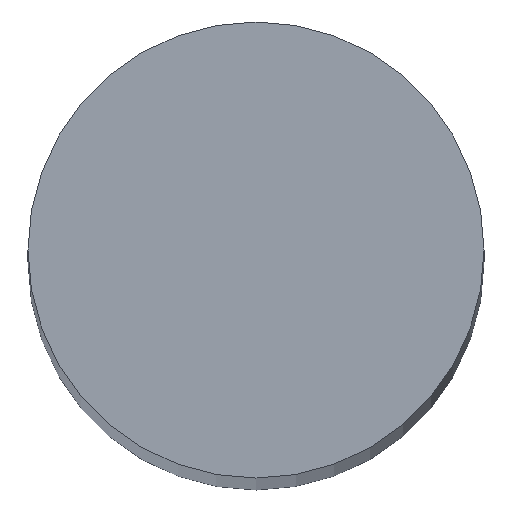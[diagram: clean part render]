
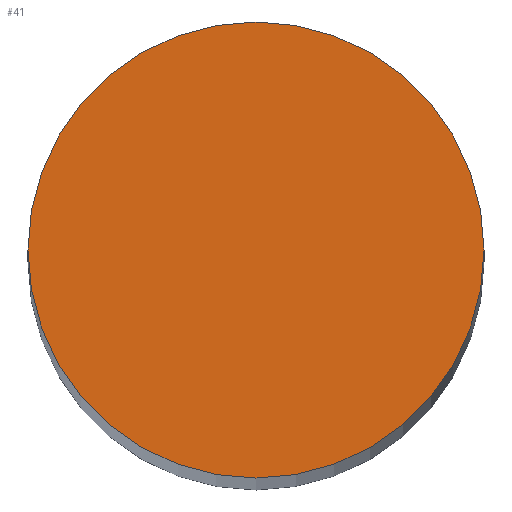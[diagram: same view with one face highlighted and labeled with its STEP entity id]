
A CAD part, top view. The second image highlights one B-rep face of the part: STEP entity #41.
In plain terms, the highlighted planar face has unit normal (0, 0, 1).
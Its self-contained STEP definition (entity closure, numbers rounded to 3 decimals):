
#16=PLANE('',#66);
#19=FACE_OUTER_BOUND('',#22,.T.);
#22=EDGE_LOOP('',(#37));
#25=CIRCLE('',#63,10.);
#27=VERTEX_POINT('',#82);
#29=EDGE_CURVE('',#27,#27,#25,.T.);
#37=ORIENTED_EDGE('',*,*,#29,.T.);
#41=ADVANCED_FACE('',(#19),#16,.T.);
#63=AXIS2_PLACEMENT_3D('',#83,#71,#72);
#66=AXIS2_PLACEMENT_3D('',#88,#78,#79);
#71=DIRECTION('center_axis',(0.,0.,1.));
#72=DIRECTION('ref_axis',(-1.,0.,0.));
#78=DIRECTION('center_axis',(0.,0.,1.));
#79=DIRECTION('ref_axis',(1.,0.,0.));
#82=CARTESIAN_POINT('',(10.,0.,300.));
#83=CARTESIAN_POINT('Origin',(0.,0.,300.));
#88=CARTESIAN_POINT('Origin',(0.,0.,300.));
